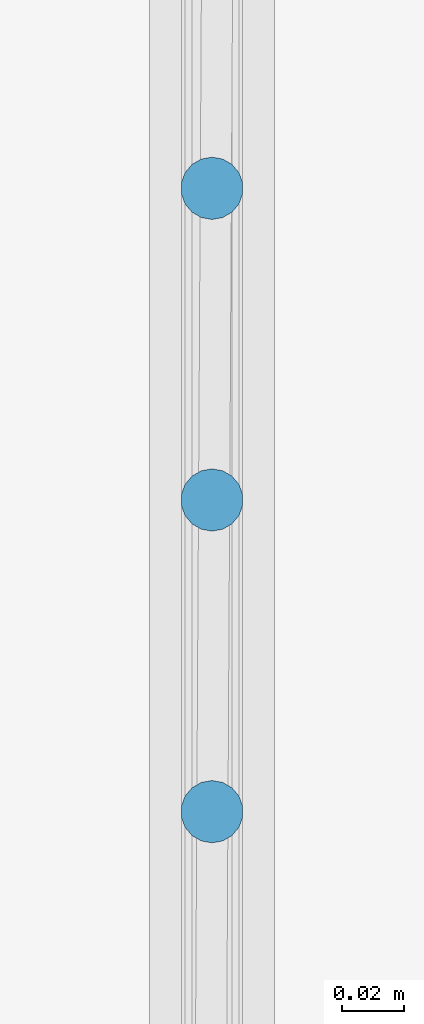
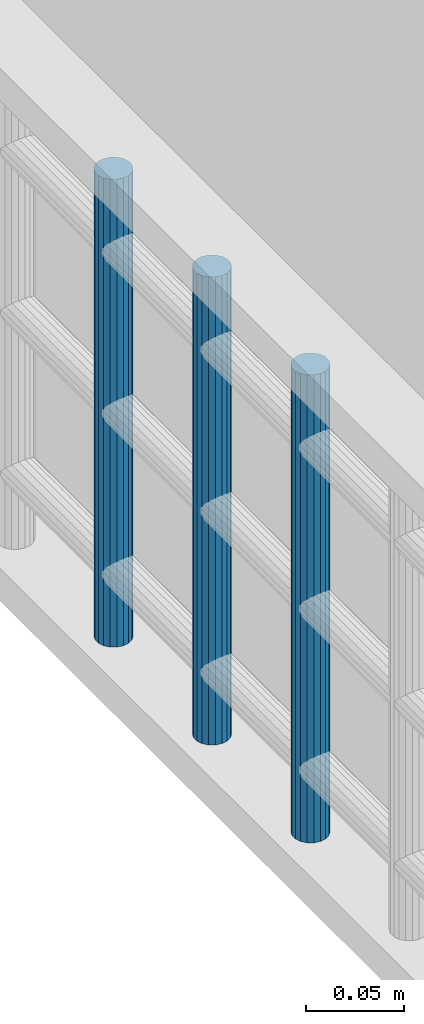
# One storey, part 50 of 133: 3 members, 1 element without a shape of its own.
"""IFC2X3 building model written with IfcOpenShell, lengths in centimetres."""

from ifc_helpers import new_model, entity, si_unit, converted_unit, direction, frame, origin, origin_with_axes, place, context, subcontext, project, spatial, faceted_brep, material, type_object, element, aggregate, save


model = new_model("IFC2X3")

# Units and contexts
model_context = context("Model", 3, precision=0.0001, world=origin(), true_north=direction((0.225632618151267, 0.974212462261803, 0.0)))
body_context = subcontext(model_context, "Body", "Model", "MODEL_VIEW")
ifc_project = project(units=[si_unit("LENGTHUNIT", "METRE", prefix="CENTI"), si_unit("AREAUNIT", "SQUARE_METRE", prefix="CENTI"), si_unit("VOLUMEUNIT", "CUBIC_METRE", prefix="CENTI"), converted_unit("PLANEANGLEUNIT", "DEGREE", entity("IfcRatioMeasure", 0.0174532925), si_unit("PLANEANGLEUNIT", "RADIAN"), dimensions=[0, 0, 0, 0, 0, 0, 0])], contexts=[model_context])

# Site, building, storey
site_placement = place(None, origin_with_axes())
site = spatial("IfcSite", under=ifc_project, at=site_placement, Name="Default Site", CompositionType="ELEMENT")
building_placement = place(site_placement, origin_with_axes())
building = spatial("IfcBuilding", under=site, at=building_placement, Name="Default Building", CompositionType="ELEMENT")
storey_placement = place(building_placement, frame((0.0, 0.0, -291.400371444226), z_axis=(0.0, 0.0, 1.0), x_axis=(1.0, 0.0, 0.0)))
storey = spatial("IfcBuildingStorey", under=building, at=storey_placement, Name="Rez-de-Jardin", CompositionType="ELEMENT", Elevation=-291.400371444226)

# Assembly, members
building_element_proxy_type = type_object("IfcBuildingElementProxyType", Name="Type Object", PredefinedType="NOTDEFINED")
assembly_placement = place(storey_placement, frame((1053.90827276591, -19.9208693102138, 18.0), z_axis=(0.0, 0.0, 1.0), x_axis=(-1.22124532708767e-15, -1.0, 0.0)))
assembly = element("IfcElementAssembly", 1, at=assembly_placement, inside=storey, type_object=building_element_proxy_type, Name="Panneau 73504", ObjectType="Precast panel", PredefinedType="USERDEFINED")
ifc_material = material(Name="Beige")
member_1_placement = place(assembly_placement, frame((105.939698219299, 0.3420201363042, 31.0000002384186), z_axis=(0.0, 0.0, 1.0), x_axis=(0.500008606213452, -0.866020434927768, 0.0)))
member_1 = element("IfcMember", 2, at=member_1_placement, material=ifc_material, Name="4294966781", context=body_context, shape_type="Brep", body=[
    faceted_brep([(9.99200722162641e-14, -2.22044604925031e-14, 3.88578058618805e-14), (-0.347298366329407, -2.22044604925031e-14, 3.88578058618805e-14), (-0.673654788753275, -0.118785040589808, 3.88578058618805e-14), (-0.939699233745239, -0.342016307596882, 3.88578058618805e-14), (-1.1133484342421, -0.642778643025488, 3.88578058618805e-14), (-1.17366291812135, -0.984804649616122, 3.88578058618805e-14), (-1.11335640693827, -1.32682099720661, 3.88578058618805e-14), (-0.939713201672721, -1.62759365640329, 3.88578058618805e-14), (-0.67367128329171, -1.85083461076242, 3.88578058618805e-14), (-0.347320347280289, -1.96961967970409, 3.88578058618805e-14), (-2.19809507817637e-05, -1.96961967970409, 3.88578058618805e-14), (0.326328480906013, -1.85084496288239, 3.88578058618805e-14), (0.59237888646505, -1.62760337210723, 3.88578058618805e-14), (0.766028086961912, -1.32684103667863, 3.88578058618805e-14), (0.826336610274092, -0.984825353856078, 3.88578058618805e-14), (0.766036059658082, -0.642798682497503, 3.88578058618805e-14), (0.592392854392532, -0.342026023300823, 3.88578058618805e-14), (0.326344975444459, -0.118795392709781, 3.88578058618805e-14), (0.326344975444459, -0.118795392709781, -29.000000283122), (0.592392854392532, -0.342026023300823, -29.000000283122), (0.766036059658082, -0.642798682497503, -29.000000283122), (0.826336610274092, -0.984825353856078, -29.000000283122), (0.766028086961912, -1.32684103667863, -29.000000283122), (0.59237888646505, -1.62760337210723, -29.000000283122), (0.326328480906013, -1.85084496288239, -29.000000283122), (-2.19809507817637e-05, -1.96961967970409, -29.000000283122), (-0.347320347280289, -1.96961967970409, -29.000000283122), (-0.67367128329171, -1.85083461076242, -29.000000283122), (-0.939713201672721, -1.62759365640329, -29.000000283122), (-1.11335640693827, -1.32682099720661, -29.000000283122), (-1.17366291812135, -0.984804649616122, -29.000000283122), (-1.1133484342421, -0.642778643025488, -29.000000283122), (-0.939699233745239, -0.342016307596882, -29.000000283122), (-0.673654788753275, -0.118785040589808, -29.000000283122), (-0.347298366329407, -2.22044604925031e-14, -29.000000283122), (9.99200722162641e-14, -2.22044604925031e-14, -29.000000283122), (0.592385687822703, -0.342034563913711, 3.88578058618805e-14), (0.592385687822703, -0.342034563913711, -29.000000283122), (0.766039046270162, -0.642796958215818, 3.88578058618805e-14), (0.766039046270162, -0.642796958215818, -29.000000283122), (0.826340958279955, -0.984824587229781, 3.88578058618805e-14), (0.826340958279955, -0.984824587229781, -29.000000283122), (0.76602656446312, -1.32684076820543, 3.88578058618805e-14), (0.76602656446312, -1.32684076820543, -29.000000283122), (0.592378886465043, -1.62760337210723, 3.88578058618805e-14), (0.592378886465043, -1.62760337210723, -29.000000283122), (0.326326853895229, -1.85084302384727, 3.88578058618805e-14), (0.326326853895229, -1.85084302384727, -29.000000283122), (-2.08702528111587e-05, -1.96962273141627, 3.88578058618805e-14), (-2.08702528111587e-05, -1.96962273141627, -29.000000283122), (-0.347320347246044, -1.96961623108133, 3.88578058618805e-14), (-0.347320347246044, -1.96961623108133, -29.000000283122), (-0.673671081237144, -1.85083405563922, 3.88578058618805e-14), (-0.673671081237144, -1.85083405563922, -29.000000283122), (-0.93971358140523, -1.62759410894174, 3.88578058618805e-14), (-0.93971358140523, -1.62759410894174, -29.000000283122), (-1.11335939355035, -1.3268227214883, 3.88578058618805e-14), (-1.11335939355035, -1.3268227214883, -29.000000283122), (-1.17365971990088, -0.984804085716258, 3.88578058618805e-14), (-1.17365971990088, -0.984804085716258, -29.000000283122), (-1.11335092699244, -0.642778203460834, 3.88578058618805e-14), (-1.11335092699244, -0.642778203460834, -29.000000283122), (-0.939699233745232, -0.342016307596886, 3.88578058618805e-14), (-0.939699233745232, -0.342016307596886, -29.000000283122), (-0.67365578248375, -0.118783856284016, 3.88578058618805e-14), (-0.67365578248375, -0.118783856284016, -29.000000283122), (-0.347296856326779, -4.1488267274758e-06, 3.88578058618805e-14), (-0.347296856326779, -4.1488267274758e-06, -29.000000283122), (-3.41444074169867e-11, -3.44862278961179e-06, 3.88578058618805e-14), (-3.41444074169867e-11, -3.44862278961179e-06, -29.000000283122), (0.326348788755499, -0.118784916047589, 3.88578058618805e-14), (0.326348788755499, -0.118784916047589, -29.000000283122)], [[[0, 1, 2, 3, 4, 5, 6, 7, 8, 9, 10, 11, 12, 13, 14, 15, 16, 17]], [[18, 19, 20, 21, 22, 23, 24, 25, 26, 27, 28, 29, 30, 31, 32, 33, 34, 35]], [[17, 36, 37, 18]], [[16, 38, 39, 19]], [[15, 40, 41, 20]], [[14, 42, 43, 21]], [[13, 44, 45, 22]], [[12, 46, 47, 23]], [[11, 48, 49, 24]], [[10, 50, 51, 25]], [[9, 52, 53, 26]], [[8, 54, 55, 27]], [[7, 56, 57, 28]], [[6, 58, 59, 29]], [[5, 60, 61, 30]], [[4, 62, 63, 31]], [[3, 64, 65, 32]], [[2, 66, 67, 33]], [[1, 68, 69, 34]], [[0, 70, 71, 35]]]),
])
member_2_placement = place(assembly_placement, frame((115.939688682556, 0.3420201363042, 31.0000002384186), z_axis=(0.0, 0.0, 1.0), x_axis=(0.499982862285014, -0.866035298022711, 0.0)))
member_2 = element("IfcMember", 3, at=member_2_placement, material=ifc_material, Name="4294966780", context=body_context, shape_type="Brep", body=[
    faceted_brep([(-9.99200722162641e-14, 0.0, -5.55111512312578e-15), (-0.347292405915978, 0.0, -5.55111512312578e-15), (-0.673645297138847, -0.118794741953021, -5.55111512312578e-15), (-0.939683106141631, -0.342033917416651, -5.55111512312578e-15), (-1.11332336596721, -0.642801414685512, -5.55111512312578e-15), (-1.17362768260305, -0.984829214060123, -5.55111512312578e-15), (-1.11331100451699, -1.32684376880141, -5.55111512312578e-15), (-0.939658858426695, -1.62761126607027, -5.55111512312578e-15), (-0.673610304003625, -1.85084431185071, -5.55111512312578e-15), (-0.347255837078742, -1.96961967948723, -5.55111512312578e-15), (4.25290973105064e-05, -1.96960935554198, -5.55111512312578e-15), (0.326389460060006, -1.8508249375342, -5.55111512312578e-15), (0.592433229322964, -1.62757543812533, -5.55111512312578e-15), (0.766073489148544, -1.32680794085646, -5.55111512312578e-15), (0.82637184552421, -0.98479046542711, -5.55111512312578e-15), (0.766061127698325, -0.642765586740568, -5.55111512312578e-15), (0.592403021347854, -0.342008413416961, -5.55111512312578e-15), (0.326354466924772, -0.118775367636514, -5.55111512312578e-15), (0.326354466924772, -0.118775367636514, -29.0000002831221), (0.592403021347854, -0.342008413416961, -29.0000002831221), (0.766061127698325, -0.642765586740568, -29.0000002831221), (0.82637184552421, -0.98479046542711, -29.0000002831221), (0.766073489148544, -1.32680794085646, -29.0000002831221), (0.592433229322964, -1.62757543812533, -29.0000002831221), (0.326389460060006, -1.8508249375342, -29.0000002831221), (4.25290973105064e-05, -1.96960935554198, -29.0000002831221), (-0.347255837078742, -1.96961967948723, -29.0000002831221), (-0.673610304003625, -1.85084431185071, -29.0000002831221), (-0.939658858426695, -1.62761126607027, -29.0000002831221), (-1.11331100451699, -1.32684376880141, -29.0000002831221), (-1.17362768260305, -0.984829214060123, -29.0000002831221), (-1.11332336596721, -0.642801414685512, -29.0000002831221), (-0.939683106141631, -0.342033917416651, -29.0000002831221), (-0.673645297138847, -0.118794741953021, -29.0000002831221), (-0.347292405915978, 0.0, -29.0000002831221), (-9.99200722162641e-14, 0.0, -29.0000002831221), (0.592403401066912, -0.342007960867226, -5.55111512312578e-15), (0.592403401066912, -0.342007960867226, -29.0000002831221), (0.766055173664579, -0.642769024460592, -5.55111512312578e-15), (0.766055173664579, -0.642769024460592, -29.0000002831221), (0.826376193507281, -0.984789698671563, -5.55111512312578e-15), (0.826376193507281, -0.984789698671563, -29.0000002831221), (0.766071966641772, -1.32680767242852, -5.55111512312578e-15), (0.766071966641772, -1.32680767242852, -29.0000002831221), (0.592433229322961, -1.62757543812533, -5.55111512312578e-15), (0.592433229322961, -1.62757543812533, -29.0000002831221), (0.326387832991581, -1.85082299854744, -5.55111512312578e-15), (0.326387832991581, -1.85082299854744, -29.0000002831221), (4.3639885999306e-05, -1.96961240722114, -5.55111512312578e-15), (4.3639885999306e-05, -1.96961240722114, -29.0000002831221), (-0.347255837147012, -1.96961623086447, -5.55111512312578e-15), (-0.347255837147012, -1.96961623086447, -29.0000002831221), (-0.673610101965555, -1.85084375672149, -5.55111512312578e-15), (-0.673610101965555, -1.85084375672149, -29.0000002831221), (-0.939659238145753, -1.62761171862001, -5.55111512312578e-15), (-0.939659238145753, -1.62761171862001, -29.0000002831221), (-1.11331399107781, -1.32684549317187, -5.55111512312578e-15), (-1.11331399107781, -1.32684549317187, -29.0000002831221), (-1.17362448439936, -0.984828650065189, -5.55111512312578e-15), (-1.17362448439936, -0.984828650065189, -29.0000002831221), (-1.11332585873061, -0.64280097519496, -5.55111512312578e-15), (-1.11332585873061, -0.64280097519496, -29.0000002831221), (-0.939683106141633, -0.34203391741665, -5.55111512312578e-15), (-0.939683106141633, -0.34203391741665, -29.0000002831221), (-0.673646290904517, -0.118793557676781, -5.55111512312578e-15), (-0.673646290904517, -0.118793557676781, -29.0000002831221), (-0.347290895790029, -4.1487817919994e-06, -5.55111512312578e-15), (-0.347290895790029, -4.1487817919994e-06, -29.0000002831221), (-1.36205507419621e-10, 6.8752044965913e-06, -5.55111512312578e-15), (-1.36205507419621e-10, 6.8752044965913e-06, -29.0000002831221), (0.326354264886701, -0.118775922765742, -5.55111512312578e-15), (0.326354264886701, -0.118775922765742, -29.0000002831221)], [[[0, 1, 2, 3, 4, 5, 6, 7, 8, 9, 10, 11, 12, 13, 14, 15, 16, 17]], [[18, 19, 20, 21, 22, 23, 24, 25, 26, 27, 28, 29, 30, 31, 32, 33, 34, 35]], [[17, 36, 37, 18]], [[16, 38, 39, 19]], [[15, 40, 41, 20]], [[14, 42, 43, 21]], [[13, 44, 45, 22]], [[12, 46, 47, 23]], [[11, 48, 49, 24]], [[10, 50, 51, 25]], [[9, 52, 53, 26]], [[8, 54, 55, 27]], [[7, 56, 57, 28]], [[6, 58, 59, 29]], [[5, 60, 61, 30]], [[4, 62, 63, 31]], [[3, 64, 65, 32]], [[2, 66, 67, 33]], [[1, 68, 69, 34]], [[0, 70, 71, 35]]]),
])
member_3_placement = place(assembly_placement, frame((125.939691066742, 0.3420201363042, 31.0000002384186), z_axis=(0.0, 0.0, 1.0), x_axis=(0.500008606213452, -0.866020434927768, 0.0)))
member_3 = element("IfcMember", 4, at=member_3_placement, material=ifc_material, Name="4294966779", context=body_context, shape_type="Brep", body=[
    faceted_brep([(6.66133814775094e-14, -8.88178419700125e-14, 3.88578058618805e-14), (-0.347298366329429, -8.88178419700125e-14, 3.88578058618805e-14), (-0.673648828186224, -0.118774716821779, 3.88578058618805e-14), (-0.939693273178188, -0.342005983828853, 3.88578058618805e-14), (-1.11334843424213, -0.642778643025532, 3.88578058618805e-14), (-1.17365695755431, -0.984794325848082, 3.88578058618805e-14), (-1.11335044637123, -1.32681067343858, 3.88578058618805e-14), (-0.939707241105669, -1.62758333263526, 3.88578058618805e-14), (-0.67366532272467, -1.85082428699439, 3.88578058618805e-14), (-0.347314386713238, -1.96960935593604, 3.88578058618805e-14), (-1.60203837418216e-05, -1.96960935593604, 3.88578058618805e-14), (0.326334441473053, -1.85083463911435, 3.88578058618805e-14), (0.592378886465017, -1.62760337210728, 3.88578058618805e-14), (0.766034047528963, -1.3268307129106, 3.88578058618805e-14), (0.826342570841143, -0.984815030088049, 3.88578058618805e-14), (0.76603605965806, -0.642798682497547, 3.88578058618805e-14), (0.592392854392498, -0.342026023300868, 3.88578058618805e-14), (0.326350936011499, -0.11878506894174, 3.88578058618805e-14), (0.326350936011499, -0.11878506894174, -29.000000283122), (0.592392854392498, -0.342026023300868, -29.000000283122), (0.76603605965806, -0.642798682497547, -29.000000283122), (0.826342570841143, -0.984815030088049, -29.000000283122), (0.766034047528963, -1.3268307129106, -29.000000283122), (0.592378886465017, -1.62760337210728, -29.000000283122), (0.326334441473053, -1.85083463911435, -29.000000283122), (-1.60203837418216e-05, -1.96960935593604, -29.000000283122), (-0.347314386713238, -1.96960935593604, -29.000000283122), (-0.67366532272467, -1.85082428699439, -29.000000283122), (-0.939707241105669, -1.62758333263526, -29.000000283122), (-1.11335044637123, -1.32681067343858, -29.000000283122), (-1.17365695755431, -0.984794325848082, -29.000000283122), (-1.11334843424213, -0.642778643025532, -29.000000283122), (-0.939693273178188, -0.342005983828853, -29.000000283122), (-0.673648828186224, -0.118774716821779, -29.000000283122), (-0.347298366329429, -8.88178419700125e-14, -29.000000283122), (6.66133814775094e-14, -8.88178419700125e-14, -29.000000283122), (0.592393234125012, -0.342025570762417, 3.88578058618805e-14), (0.592393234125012, -0.342025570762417, -29.000000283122), (0.766039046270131, -0.642796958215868, 3.88578058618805e-14), (0.766039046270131, -0.642796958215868, -29.000000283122), (0.826339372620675, -0.984815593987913, 3.88578058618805e-14), (0.826339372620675, -0.984815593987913, -29.000000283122), (0.766032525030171, -1.3268304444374, 3.88578058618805e-14), (0.766032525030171, -1.3268304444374, -29.000000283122), (0.592378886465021, -1.62760337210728, 3.88578058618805e-14), (0.592378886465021, -1.62760337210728, -29.000000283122), (0.326335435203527, -1.85083582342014, 3.88578058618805e-14), (0.326335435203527, -1.85083582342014, -29.000000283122), (-1.49096857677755e-05, -1.96961240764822, 3.88578058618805e-14), (-1.49096857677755e-05, -1.96961240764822, -29.000000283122), (-0.347314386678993, -1.96960590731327, 3.88578058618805e-14), (-0.347314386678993, -1.96960590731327, -29.000000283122), (-0.673665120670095, -1.85082373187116, 3.88578058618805e-14), (-0.673665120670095, -1.85082373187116, -29.000000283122), (-0.939707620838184, -1.62758378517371, 3.88578058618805e-14), (-0.939707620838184, -1.62758378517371, -29.000000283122), (-1.1133534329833, -1.32681239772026, 3.88578058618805e-14), (-1.1133534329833, -1.32681239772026, -29.000000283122), (-1.17365375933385, -0.984793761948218, 3.88578058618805e-14), (-1.17365375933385, -0.984793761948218, -29.000000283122), (-1.11334691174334, -0.64277891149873, 3.88578058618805e-14), (-1.11334691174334, -0.64277891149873, -29.000000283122), (-0.939693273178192, -0.34200598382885, 3.88578058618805e-14), (-0.939693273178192, -0.34200598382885, -29.000000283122), (-0.673649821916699, -0.118773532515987, 3.88578058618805e-14), (-0.673649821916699, -0.118773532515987, -29.000000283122), (-0.347299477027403, 3.05171209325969e-06, 3.88578058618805e-14), (-0.347299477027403, 3.05171209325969e-06, -29.000000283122), (-3.41777141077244e-11, -3.44862285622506e-06, 3.88578058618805e-14), (-3.41777141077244e-11, -3.44862285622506e-06, -29.000000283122), (0.326350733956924, -0.118785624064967, 3.88578058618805e-14), (0.326350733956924, -0.118785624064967, -29.000000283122)], [[[0, 1, 2, 3, 4, 5, 6, 7, 8, 9, 10, 11, 12, 13, 14, 15, 16, 17]], [[18, 19, 20, 21, 22, 23, 24, 25, 26, 27, 28, 29, 30, 31, 32, 33, 34, 35]], [[17, 36, 37, 18]], [[16, 38, 39, 19]], [[15, 40, 41, 20]], [[14, 42, 43, 21]], [[13, 44, 45, 22]], [[12, 46, 47, 23]], [[11, 48, 49, 24]], [[10, 50, 51, 25]], [[9, 52, 53, 26]], [[8, 54, 55, 27]], [[7, 56, 57, 28]], [[6, 58, 59, 29]], [[5, 60, 61, 30]], [[4, 62, 63, 31]], [[3, 64, 65, 32]], [[2, 66, 67, 33]], [[1, 68, 69, 34]], [[0, 70, 71, 35]]]),
])
aggregate(assembly, [member_1, member_2, member_3])

save(model, "model.ifc")
